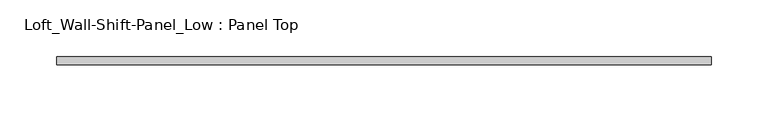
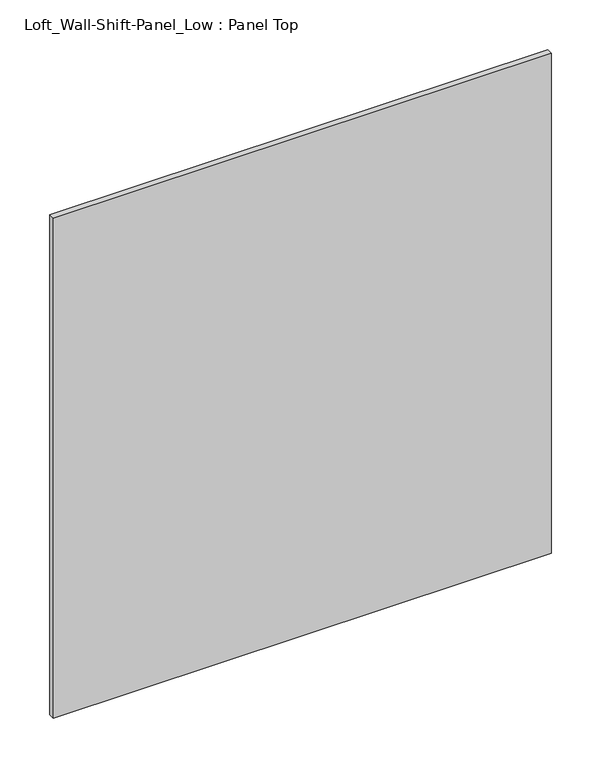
"""IFC4 building model written with IfcOpenShell, lengths in millimetres: furniture geometry, Loft_Wall-Shift-Panel_Low : Panel Top."""

from ifc_helpers import new_model, si_unit, frame, origin, place, context, project, spatial, polyline, outline, extrude, source, transform, mapped, element, save


def loft_wall_shift_panel_low_panel_top_9cc669cb(model_context):
    return source(origin(), model_context, "Body", "SweptSolid", [
        extrude(outline(polyline([(288.925, -3.571875), (-288.925, -3.571875), (-288.925, 3.571875), (288.925, 3.571875), (288.925, -3.571875)])), frame((0.0, 0.0, 683.41875), z_axis=(0.0, 0.0, 1.0), x_axis=(1.0, 0.0, 0.0)), (0.0, 0.0, 1.0), 613.56875),
    ])


if __name__ == "__main__":
    model = new_model("IFC4")
    model_context = context("Model", 3, world=origin())
    ifc_project = project(units=[si_unit("LENGTHUNIT", "METRE", prefix="MILLI")], contexts=[model_context])
    site = spatial("IfcSite", under=ifc_project)
    building = spatial("IfcBuilding", under=site)
    placement = place(None, origin())
    loft_wall_shift_panel_low_panel_top_shape = loft_wall_shift_panel_low_panel_top_9cc669cb(model_context)
    element("IfcFurniture", 1, ObjectType="Loft_Wall-Shift-Panel_Low : Panel Top", at=placement, inside=building, context=model_context, shape_type="MappedRepresentation", body=[
        mapped(loft_wall_shift_panel_low_panel_top_shape, transform((0.0, 0.0, 0.0), x_axis=(1.0, 0.0, 0.0), y_axis=(0.0, 1.0, 0.0), z_axis=(0.0, 0.0, 1.0))),
    ])
    save(model, "model.ifc")
